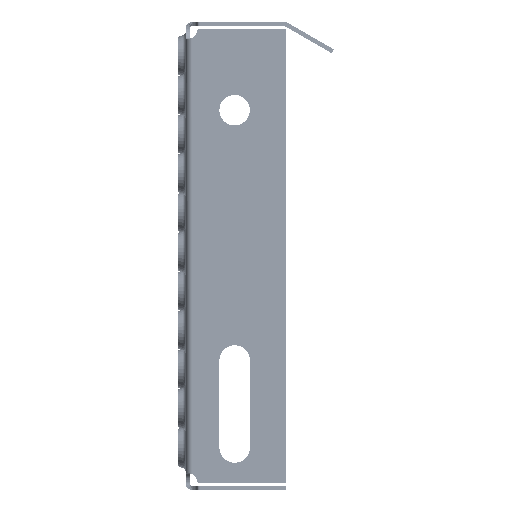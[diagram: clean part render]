
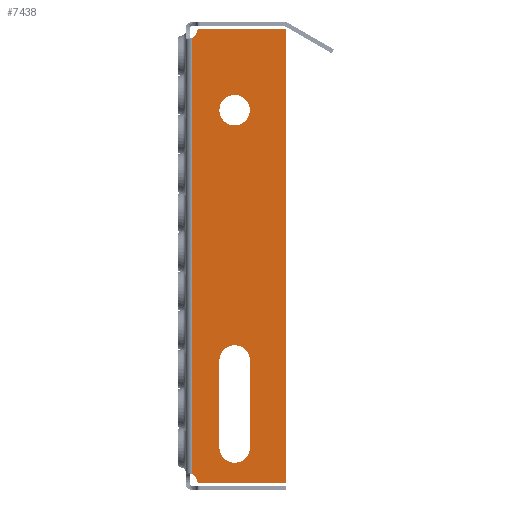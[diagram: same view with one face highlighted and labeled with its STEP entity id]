
A CAD part, left-side view. The second image highlights one B-rep face of the part: STEP entity #7438.
In plain terms, the highlighted planar face has unit normal (-1, 0, 0).
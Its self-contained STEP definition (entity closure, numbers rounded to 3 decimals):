
#139 = CARTESIAN_POINT ( 'NONE',  ( -600., -22.5, 47.5 ) ) ;
#277 = VERTEX_POINT ( 'NONE', #27811 ) ;
#645 = CARTESIAN_POINT ( 'NONE',  ( -600., -6.416, -117. ) ) ;
#1673 = VERTEX_POINT ( 'NONE', #48526 ) ;
#2452 = DIRECTION ( 'NONE',  ( 0., 0., -1. ) ) ;
#2505 = CIRCLE ( 'NONE', #17802, 5. ) ;
#2632 = DIRECTION ( 'NONE',  ( 0., 0., -1. ) ) ;
#3567 = EDGE_CURVE ( 'NONE', #6417, #41035, #36155, .T. ) ;
#3644 = CARTESIAN_POINT ( 'NONE',  ( -600., -5.43, 91.167 ) ) ;
#3861 = CARTESIAN_POINT ( 'NONE',  ( -600., -46., 92. ) ) ;
#4888 = DIRECTION ( 'NONE',  ( -1., 0., 0. ) ) ;
#5020 = VERTEX_POINT ( 'NONE', #35729 ) ;
#5070 = CARTESIAN_POINT ( 'NONE',  ( -600., -22.5, 54.5 ) ) ;
#5175 = CARTESIAN_POINT ( 'NONE',  ( -600., -46., -117. ) ) ;
#5610 = ORIENTED_EDGE ( 'NONE', *, *, #6513, .T. ) ;
#5995 = CARTESIAN_POINT ( 'NONE',  ( -600., -3., 87.67 ) ) ;
#6011 = CARTESIAN_POINT ( 'NONE',  ( -600., -5.43, -116.167 ) ) ;
#6417 = VERTEX_POINT ( 'NONE', #6011 ) ;
#6513 = EDGE_CURVE ( 'NONE', #16384, #37308, #49298, .T. ) ;
#6605 = EDGE_LOOP ( 'NONE', ( #23949, #52655, #41653, #52354, #41152, #41903, #5610, #41310 ) ) ;
#6868 = ORIENTED_EDGE ( 'NONE', *, *, #35839, .F. ) ;
#7438 = ADVANCED_FACE ( 'NONE', ( #43478, #27586, #38360 ), #20843, .F. ) ;
#7737 = AXIS2_PLACEMENT_3D ( 'NONE', #14664, #43199, #18797 ) ;
#8917 = EDGE_LOOP ( 'NONE', ( #35726 ) ) ;
#9191 = DIRECTION ( 'NONE',  ( 0., 0., -1. ) ) ;
#9754 = CARTESIAN_POINT ( 'NONE',  ( -600., -22.5, -100.5 ) ) ;
#10507 = ORIENTED_EDGE ( 'NONE', *, *, #12813, .F. ) ;
#11994 = CARTESIAN_POINT ( 'NONE',  ( -600., -6.416, -117. ) ) ;
#12235 = EDGE_CURVE ( 'NONE', #37308, #39065, #42483, .T. ) ;
#12729 = CIRCLE ( 'NONE', #45729, 7. ) ;
#12813 = EDGE_CURVE ( 'NONE', #277, #44053, #14344, .T. ) ;
#13685 = ORIENTED_EDGE ( 'NONE', *, *, #45848, .F. ) ;
#13710 = AXIS2_PLACEMENT_3D ( 'NONE', #22134, #50622, #26264 ) ;
#13801 = DIRECTION ( 'NONE',  ( 0., 0., -1. ) ) ;
#14191 = VECTOR ( 'NONE', #36389, 1000. ) ;
#14344 = LINE ( 'NONE', #24889, #36038 ) ;
#14664 = CARTESIAN_POINT ( 'NONE',  ( -600., -6.416, 91. ) ) ;
#15443 = AXIS2_PLACEMENT_3D ( 'NONE', #9754, #38209, #13801 ) ;
#15608 = EDGE_CURVE ( 'NONE', #41810, #41810, #12729, .T. ) ;
#15673 = ORIENTED_EDGE ( 'NONE', *, *, #36157, .F. ) ;
#16384 = VERTEX_POINT ( 'NONE', #41868 ) ;
#16675 = DIRECTION ( 'NONE',  ( 0., 0., -1. ) ) ;
#17072 = CIRCLE ( 'NONE', #15443, 7. ) ;
#17802 = AXIS2_PLACEMENT_3D ( 'NONE', #51402, #27068, #2632 ) ;
#18152 = VERTEX_POINT ( 'NONE', #44529 ) ;
#18636 = VECTOR ( 'NONE', #32367, 1000. ) ;
#18797 = DIRECTION ( 'NONE',  ( 0., 0., 1. ) ) ;
#19674 = DIRECTION ( 'NONE',  ( 0., 0., 1. ) ) ;
#20087 = DIRECTION ( 'NONE',  ( 0., 0., 1. ) ) ;
#20279 = LINE ( 'NONE', #28137, #41967 ) ;
#20669 = DIRECTION ( 'NONE',  ( 1., 0., 0. ) ) ;
#20786 = CIRCLE ( 'NONE', #47774, 7. ) ;
#20843 = PLANE ( 'NONE',  #39155 ) ;
#20976 = AXIS2_PLACEMENT_3D ( 'NONE', #51221, #26881, #2452 ) ;
#22134 = CARTESIAN_POINT ( 'NONE',  ( -600., -6.416, -116. ) ) ;
#22531 = CARTESIAN_POINT ( 'NONE',  ( -600., -46., -117. ) ) ;
#23793 = LINE ( 'NONE', #11994, #14191 ) ;
#23949 = ORIENTED_EDGE ( 'NONE', *, *, #30110, .F. ) ;
#24889 = CARTESIAN_POINT ( 'NONE',  ( -600., -15.5, -60.5 ) ) ;
#26264 = DIRECTION ( 'NONE',  ( 0., 0., -1. ) ) ;
#26881 = DIRECTION ( 'NONE',  ( 1., 0., 0. ) ) ;
#27068 = DIRECTION ( 'NONE',  ( 1., 0., 0. ) ) ;
#27334 = EDGE_LOOP ( 'NONE', ( #10507, #13685, #6868, #15673 ) ) ;
#27586 = FACE_BOUND ( 'NONE', #8917, .T. ) ;
#27811 = CARTESIAN_POINT ( 'NONE',  ( -600., -15.5, -60.5 ) ) ;
#28022 = EDGE_CURVE ( 'NONE', #44610, #5020, #42346, .T. ) ;
#28137 = CARTESIAN_POINT ( 'NONE',  ( -600., -29.5, -60.5 ) ) ;
#28895 = CARTESIAN_POINT ( 'NONE',  ( -600., 0.5, -122.916 ) ) ;
#29304 = CARTESIAN_POINT ( 'NONE',  ( -600., -22.5, -60.5 ) ) ;
#29390 = LINE ( 'NONE', #35870, #33200 ) ;
#30110 = EDGE_CURVE ( 'NONE', #18152, #39065, #29390, .T. ) ;
#31318 = VERTEX_POINT ( 'NONE', #41879 ) ;
#31536 = VECTOR ( 'NONE', #50995, 1000. ) ;
#32367 = DIRECTION ( 'NONE',  ( 0., 1., 0. ) ) ;
#33200 = VECTOR ( 'NONE', #19674, 1000. ) ;
#33381 = DIRECTION ( 'NONE',  ( 0., 0., -1. ) ) ;
#33558 = DIRECTION ( 'NONE',  ( -1., 0., 0. ) ) ;
#34238 = CARTESIAN_POINT ( 'NONE',  ( -600., -15.5, -100.5 ) ) ;
#35726 = ORIENTED_EDGE ( 'NONE', *, *, #15608, .F. ) ;
#35729 = CARTESIAN_POINT ( 'NONE',  ( -600., -46., 92. ) ) ;
#35839 = EDGE_CURVE ( 'NONE', #31318, #1673, #20279, .T. ) ;
#35870 = CARTESIAN_POINT ( 'NONE',  ( -600., -3., -122.916 ) ) ;
#36038 = VECTOR ( 'NONE', #16675, 1000. ) ;
#36155 = CIRCLE ( 'NONE', #13710, 1. ) ;
#36157 = EDGE_CURVE ( 'NONE', #44053, #31318, #17072, .T. ) ;
#36389 = DIRECTION ( 'NONE',  ( 0., -1., 0. ) ) ;
#37308 = VERTEX_POINT ( 'NONE', #3644 ) ;
#38209 = DIRECTION ( 'NONE',  ( -1., 0., 0. ) ) ;
#38360 = FACE_BOUND ( 'NONE', #27334, .T. ) ;
#39065 = VERTEX_POINT ( 'NONE', #5995 ) ;
#39155 = AXIS2_PLACEMENT_3D ( 'NONE', #28895, #20669, #49346 ) ;
#40644 = EDGE_CURVE ( 'NONE', #18152, #6417, #2505, .T. ) ;
#41035 = VERTEX_POINT ( 'NONE', #645 ) ;
#41152 = ORIENTED_EDGE ( 'NONE', *, *, #28022, .T. ) ;
#41310 = ORIENTED_EDGE ( 'NONE', *, *, #12235, .T. ) ;
#41653 = ORIENTED_EDGE ( 'NONE', *, *, #3567, .T. ) ;
#41810 = VERTEX_POINT ( 'NONE', #139 ) ;
#41868 = CARTESIAN_POINT ( 'NONE',  ( -600., -6.416, 92. ) ) ;
#41879 = CARTESIAN_POINT ( 'NONE',  ( -600., -29.5, -100.5 ) ) ;
#41903 = ORIENTED_EDGE ( 'NONE', *, *, #52610, .T. ) ;
#41967 = VECTOR ( 'NONE', #20087, 1000. ) ;
#42346 = LINE ( 'NONE', #22531, #31536 ) ;
#42483 = CIRCLE ( 'NONE', #20976, 5. ) ;
#43199 = DIRECTION ( 'NONE',  ( -1., 0., 0. ) ) ;
#43478 = FACE_OUTER_BOUND ( 'NONE', #6605, .T. ) ;
#44053 = VERTEX_POINT ( 'NONE', #34238 ) ;
#44529 = CARTESIAN_POINT ( 'NONE',  ( -600., -3., -112.67 ) ) ;
#44610 = VERTEX_POINT ( 'NONE', #5175 ) ;
#45729 = AXIS2_PLACEMENT_3D ( 'NONE', #5070, #33558, #9191 ) ;
#45848 = EDGE_CURVE ( 'NONE', #1673, #277, #20786, .T. ) ;
#47774 = AXIS2_PLACEMENT_3D ( 'NONE', #29304, #4888, #33381 ) ;
#47864 = EDGE_CURVE ( 'NONE', #41035, #44610, #23793, .T. ) ;
#48526 = CARTESIAN_POINT ( 'NONE',  ( -600., -29.5, -60.5 ) ) ;
#49298 = CIRCLE ( 'NONE', #7737, 1. ) ;
#49346 = DIRECTION ( 'NONE',  ( 0., 0., -1. ) ) ;
#50622 = DIRECTION ( 'NONE',  ( -1., 0., 0. ) ) ;
#50995 = DIRECTION ( 'NONE',  ( 0., 0., 1. ) ) ;
#51221 = CARTESIAN_POINT ( 'NONE',  ( -600., -0.5, 92. ) ) ;
#51402 = CARTESIAN_POINT ( 'NONE',  ( -600., -0.5, -117. ) ) ;
#52354 = ORIENTED_EDGE ( 'NONE', *, *, #47864, .T. ) ;
#52380 = LINE ( 'NONE', #3861, #18636 ) ;
#52610 = EDGE_CURVE ( 'NONE', #5020, #16384, #52380, .T. ) ;
#52655 = ORIENTED_EDGE ( 'NONE', *, *, #40644, .T. ) ;
